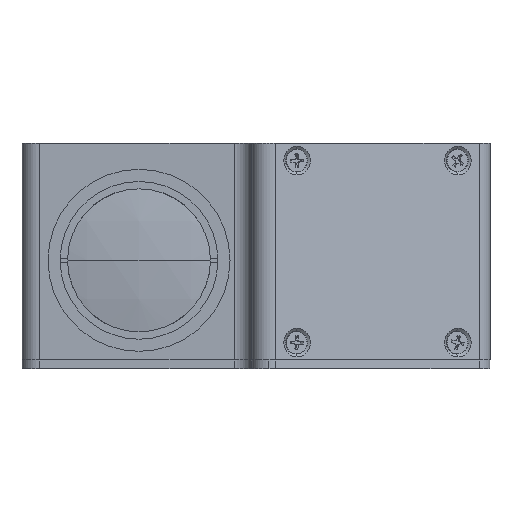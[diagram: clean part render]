
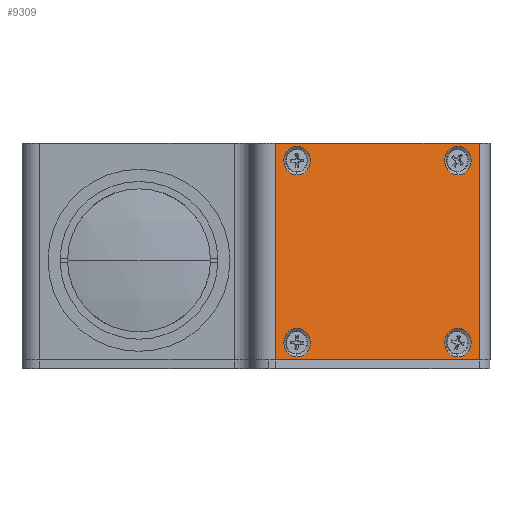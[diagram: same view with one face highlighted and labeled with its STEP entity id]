
A CAD part, left-side view. The second image highlights one B-rep face of the part: STEP entity #9309.
In plain terms, the highlighted planar face has unit normal (-0.927, -0.375, 0).
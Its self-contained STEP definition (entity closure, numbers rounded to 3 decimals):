
#77 = DIRECTION ( 'NONE',  ( -0.927, -0.375, 0. ) ) ;
#210 = AXIS2_PLACEMENT_3D ( 'NONE', #6949, #77, #8100 ) ;
#296 = LINE ( 'NONE', #2169, #8769 ) ;
#304 = DIRECTION ( 'NONE',  ( -0.927, -0.375, 0. ) ) ;
#306 = VERTEX_POINT ( 'NONE', #5546 ) ;
#349 = ORIENTED_EDGE ( 'NONE', *, *, #4444, .F. ) ;
#415 = ORIENTED_EDGE ( 'NONE', *, *, #5215, .F. ) ;
#437 = VECTOR ( 'NONE', #2296, 1000. ) ;
#662 = ORIENTED_EDGE ( 'NONE', *, *, #5135, .F. ) ;
#965 = VECTOR ( 'NONE', #6121, 1000. ) ;
#1397 = CARTESIAN_POINT ( 'NONE',  ( 40.923, -73.583, -19. ) ) ;
#1472 = EDGE_LOOP ( 'NONE', ( #10557, #11671 ) ) ;
#1474 = AXIS2_PLACEMENT_3D ( 'NONE', #5333, #13368, #6499 ) ;
#1868 = EDGE_CURVE ( 'NONE', #13998, #14531, #12268, .T. ) ;
#2117 = AXIS2_PLACEMENT_3D ( 'NONE', #12266, #5318, #13353 ) ;
#2169 = CARTESIAN_POINT ( 'NONE',  ( 42.91, -78.498, 2. ) ) ;
#2295 = PLANE ( 'NONE',  #4126 ) ;
#2296 = DIRECTION ( 'NONE',  ( -0.375, 0.927, 0. ) ) ;
#2330 = EDGE_CURVE ( 'NONE', #5398, #10020, #6824, .T. ) ;
#2352 = FACE_OUTER_BOUND ( 'NONE', #7420, .T. ) ;
#2550 = DIRECTION ( 'NONE',  ( 0., 0., 1. ) ) ;
#2555 = VERTEX_POINT ( 'NONE', #9039 ) ;
#2715 = DIRECTION ( 'NONE',  ( -0.927, -0.375, 0. ) ) ;
#2825 = EDGE_CURVE ( 'NONE', #5249, #5046, #12921, .T. ) ;
#3308 = EDGE_CURVE ( 'NONE', #306, #4896, #13263, .T. ) ;
#3311 = DIRECTION ( 'NONE',  ( -0.927, -0.375, 0. ) ) ;
#3999 = AXIS2_PLACEMENT_3D ( 'NONE', #1397, #9487, #2550 ) ;
#4026 = EDGE_LOOP ( 'NONE', ( #6128, #4942 ) ) ;
#4126 = AXIS2_PLACEMENT_3D ( 'NONE', #10378, #4600, #12687 ) ;
#4171 = EDGE_CURVE ( 'NONE', #4541, #4512, #296, .T. ) ;
#4322 = VERTEX_POINT ( 'NONE', #4720 ) ;
#4444 = EDGE_CURVE ( 'NONE', #4896, #306, #8579, .T. ) ;
#4457 = CARTESIAN_POINT ( 'NONE',  ( 25.939, -36.495, -15.7 ) ) ;
#4512 = VERTEX_POINT ( 'NONE', #6647 ) ;
#4541 = VERTEX_POINT ( 'NONE', #10210 ) ;
#4600 = DIRECTION ( 'NONE',  ( -0.927, -0.375, 0. ) ) ;
#4638 = EDGE_CURVE ( 'NONE', #5046, #5249, #8009, .T. ) ;
#4720 = CARTESIAN_POINT ( 'NONE',  ( 23.928, -31.516, -23. ) ) ;
#4725 = EDGE_CURVE ( 'NONE', #10020, #5398, #10018, .T. ) ;
#4896 = VERTEX_POINT ( 'NONE', #14404 ) ;
#4930 = CIRCLE ( 'NONE', #12399, 3.3 ) ;
#4942 = ORIENTED_EDGE ( 'NONE', *, *, #2825, .F. ) ;
#5028 = EDGE_CURVE ( 'NONE', #14531, #13998, #4930, .T. ) ;
#5046 = VERTEX_POINT ( 'NONE', #4457 ) ;
#5135 = EDGE_CURVE ( 'NONE', #4541, #4322, #9271, .T. ) ;
#5215 = EDGE_CURVE ( 'NONE', #2555, #4512, #7456, .T. ) ;
#5235 = EDGE_CURVE ( 'NONE', #2555, #4322, #11289, .T. ) ;
#5249 = VERTEX_POINT ( 'NONE', #7279 ) ;
#5286 = ORIENTED_EDGE ( 'NONE', *, *, #5235, .T. ) ;
#5318 = DIRECTION ( 'NONE',  ( -0.927, -0.375, 0. ) ) ;
#5333 = CARTESIAN_POINT ( 'NONE',  ( 25.939, -36.495, 23. ) ) ;
#5398 = VERTEX_POINT ( 'NONE', #6470 ) ;
#5412 = FACE_BOUND ( 'NONE', #11078, .T. ) ;
#5546 = CARTESIAN_POINT ( 'NONE',  ( 25.939, -36.495, 19.7 ) ) ;
#5945 = EDGE_LOOP ( 'NONE', ( #6697, #7163 ) ) ;
#6121 = DIRECTION ( 'NONE',  ( 0., 0., -1. ) ) ;
#6128 = ORIENTED_EDGE ( 'NONE', *, *, #4638, .F. ) ;
#6470 = CARTESIAN_POINT ( 'NONE',  ( 40.923, -73.583, -22.3 ) ) ;
#6499 = DIRECTION ( 'NONE',  ( 0., 0., 1. ) ) ;
#6593 = CARTESIAN_POINT ( 'NONE',  ( 40.923, -73.583, 23. ) ) ;
#6647 = CARTESIAN_POINT ( 'NONE',  ( 42.91, -78.498, 27. ) ) ;
#6697 = ORIENTED_EDGE ( 'NONE', *, *, #5028, .F. ) ;
#6824 = CIRCLE ( 'NONE', #2117, 3.3 ) ;
#6949 = CARTESIAN_POINT ( 'NONE',  ( 25.939, -36.495, -19. ) ) ;
#7163 = ORIENTED_EDGE ( 'NONE', *, *, #1868, .F. ) ;
#7189 = CARTESIAN_POINT ( 'NONE',  ( 25.939, -36.495, 23. ) ) ;
#7224 = DIRECTION ( 'NONE',  ( 0.375, -0.927, 0. ) ) ;
#7279 = CARTESIAN_POINT ( 'NONE',  ( 25.939, -36.495, -22.3 ) ) ;
#7420 = EDGE_LOOP ( 'NONE', ( #662, #10645, #415, #5286 ) ) ;
#7456 = LINE ( 'NONE', #14065, #13536 ) ;
#7754 = DIRECTION ( 'NONE',  ( 0., 0., 1. ) ) ;
#8001 = ORIENTED_EDGE ( 'NONE', *, *, #3308, .F. ) ;
#8009 = CIRCLE ( 'NONE', #210, 3.3 ) ;
#8100 = DIRECTION ( 'NONE',  ( 0., 0., 1. ) ) ;
#8346 = DIRECTION ( 'NONE',  ( 0., 0., 1. ) ) ;
#8392 = CARTESIAN_POINT ( 'NONE',  ( 23.928, -31.516, 2. ) ) ;
#8493 = FACE_BOUND ( 'NONE', #4026, .T. ) ;
#8579 = CIRCLE ( 'NONE', #1474, 3.3 ) ;
#8769 = VECTOR ( 'NONE', #10260, 1000. ) ;
#8869 = FACE_BOUND ( 'NONE', #1472, .T. ) ;
#9039 = CARTESIAN_POINT ( 'NONE',  ( 23.928, -31.516, 27. ) ) ;
#9271 = LINE ( 'NONE', #13821, #437 ) ;
#9309 = ADVANCED_FACE ( 'NONE', ( #11599, #8869, #8493, #5412, #2352 ), #2295, .T. ) ;
#9487 = DIRECTION ( 'NONE',  ( -0.927, -0.375, 0. ) ) ;
#9651 = CARTESIAN_POINT ( 'NONE',  ( 25.939, -36.495, -19. ) ) ;
#10018 = CIRCLE ( 'NONE', #3999, 3.3 ) ;
#10020 = VERTEX_POINT ( 'NONE', #10661 ) ;
#10079 = CARTESIAN_POINT ( 'NONE',  ( 40.923, -73.583, 26.3 ) ) ;
#10210 = CARTESIAN_POINT ( 'NONE',  ( 42.91, -78.498, -23. ) ) ;
#10242 = CARTESIAN_POINT ( 'NONE',  ( 40.923, -73.583, 23. ) ) ;
#10260 = DIRECTION ( 'NONE',  ( 0., 0., 1. ) ) ;
#10377 = AXIS2_PLACEMENT_3D ( 'NONE', #7189, #304, #8346 ) ;
#10378 = CARTESIAN_POINT ( 'NONE',  ( 33.562, -55.363, 2. ) ) ;
#10557 = ORIENTED_EDGE ( 'NONE', *, *, #4725, .F. ) ;
#10645 = ORIENTED_EDGE ( 'NONE', *, *, #4171, .T. ) ;
#10661 = CARTESIAN_POINT ( 'NONE',  ( 40.923, -73.583, -15.7 ) ) ;
#10818 = DIRECTION ( 'NONE',  ( 0., 0., 1. ) ) ;
#11078 = EDGE_LOOP ( 'NONE', ( #349, #8001 ) ) ;
#11289 = LINE ( 'NONE', #8392, #965 ) ;
#11419 = DIRECTION ( 'NONE',  ( 0., 0., 1. ) ) ;
#11599 = FACE_BOUND ( 'NONE', #5945, .T. ) ;
#11671 = ORIENTED_EDGE ( 'NONE', *, *, #2330, .F. ) ;
#11732 = CARTESIAN_POINT ( 'NONE',  ( 40.923, -73.583, 19.7 ) ) ;
#12114 = AXIS2_PLACEMENT_3D ( 'NONE', #6593, #14551, #7754 ) ;
#12266 = CARTESIAN_POINT ( 'NONE',  ( 40.923, -73.583, -19. ) ) ;
#12268 = CIRCLE ( 'NONE', #12114, 3.3 ) ;
#12399 = AXIS2_PLACEMENT_3D ( 'NONE', #10242, #3311, #11419 ) ;
#12687 = DIRECTION ( 'NONE',  ( 0., 0., 1. ) ) ;
#12921 = CIRCLE ( 'NONE', #13114, 3.3 ) ;
#13114 = AXIS2_PLACEMENT_3D ( 'NONE', #9651, #2715, #10818 ) ;
#13263 = CIRCLE ( 'NONE', #10377, 3.3 ) ;
#13353 = DIRECTION ( 'NONE',  ( 0., 0., 1. ) ) ;
#13368 = DIRECTION ( 'NONE',  ( -0.927, -0.375, 0. ) ) ;
#13536 = VECTOR ( 'NONE', #7224, 1000. ) ;
#13821 = CARTESIAN_POINT ( 'NONE',  ( 45.419, -84.709, -23. ) ) ;
#13998 = VERTEX_POINT ( 'NONE', #11732 ) ;
#14065 = CARTESIAN_POINT ( 'NONE',  ( 45.419, -84.709, 27. ) ) ;
#14404 = CARTESIAN_POINT ( 'NONE',  ( 25.939, -36.495, 26.3 ) ) ;
#14531 = VERTEX_POINT ( 'NONE', #10079 ) ;
#14551 = DIRECTION ( 'NONE',  ( -0.927, -0.375, 0. ) ) ;
